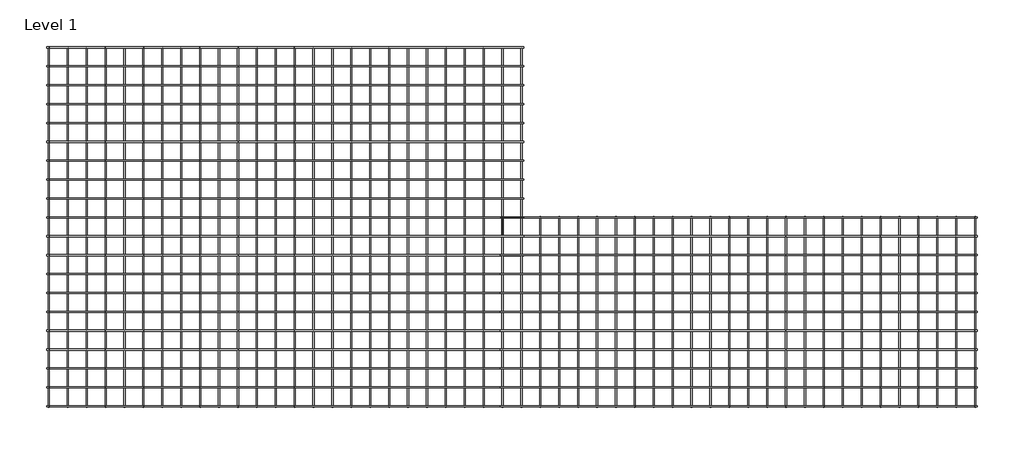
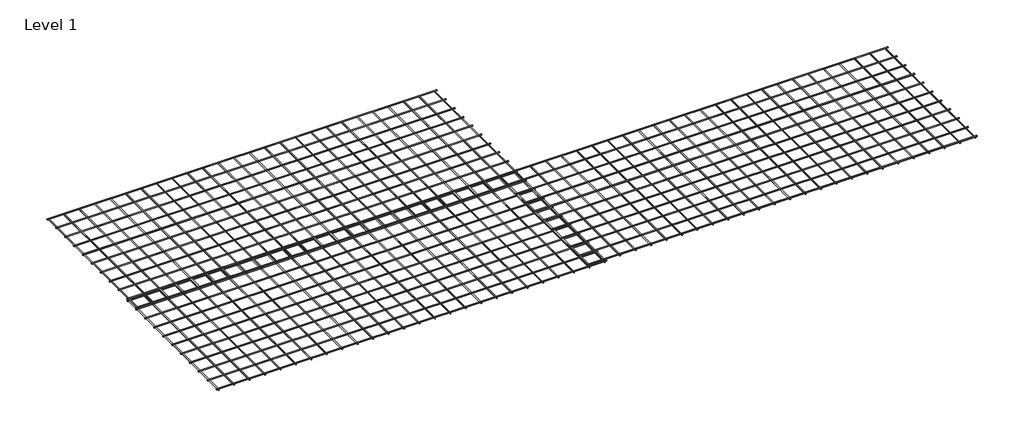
# One storey: 3 proxies.
"""IFC4 building model written with IfcOpenShell, lengths in millimetres."""

from ifc_helpers import new_model, si_unit, origin, place, context, project, spatial, transform, mapped, element, save
from components import united_steel_ductile_se62_standard_mesh_united_steel_ductile_b61f7197

model = new_model("IFC4")

# Units and contexts
model_context = context("Model", 3, world=origin())
ifc_project = project(units=[si_unit("LENGTHUNIT", "METRE", prefix="MILLI")], contexts=[model_context])

# Site, building, storey
site = spatial("IfcSite", under=ifc_project)
building = spatial("IfcBuilding", under=site)
storey = spatial("IfcBuildingStorey", under=building, Name="Level 1", Elevation=0.0)

# Proxies
placement = place(None, origin())
united_steel_ductile_se62_standard_mesh_united_steel_ductile_shape = united_steel_ductile_se62_standard_mesh_united_steel_ductile_b61f7197(model_context)
element("IfcBuildingElementProxy", 1, Name="United Steel Ductile SE62 Standard Mesh : United Steel Ductile SE62 Standard Mesh", ObjectType="United Steel Ductile SE62 Standard Mesh : United Steel Ductile SE62 Standard Mesh", at=placement, inside=storey, context=model_context, shape_type="MappedRepresentation", body=[
    mapped(united_steel_ductile_se62_standard_mesh_united_steel_ductile_shape, transform((5486.2856589, 2142.2532499, 24.375), x_axis=(1.0, 0.0, 0.0), y_axis=(0.0, 1.0, 0.0), z_axis=(0.0, 0.0, 1.0))),
])
element("IfcBuildingElementProxy", 2, Name="United Steel Ductile SE62 Standard Mesh : United Steel Ductile SE62 Standard Mesh", ObjectType="United Steel Ductile SE62 Standard Mesh : United Steel Ductile SE62 Standard Mesh", at=placement, inside=storey, context=model_context, shape_type="MappedRepresentation", body=[
    mapped(united_steel_ductile_se62_standard_mesh_united_steel_ductile_shape, transform((5486.2856589, 3942.6324308, 48.75), x_axis=(1.0, 0.0, 0.0), y_axis=(0.0, 1.0, 0.0), z_axis=(0.0, 0.0, 1.0))),
])
element("IfcBuildingElementProxy", 3, Name="United Steel Ductile SE62 Standard Mesh : United Steel Ductile SE62 Standard Mesh", ObjectType="United Steel Ductile SE62 Standard Mesh : United Steel Ductile SE62 Standard Mesh", at=placement, inside=storey, context=model_context, shape_type="MappedRepresentation", body=[
    mapped(united_steel_ductile_se62_standard_mesh_united_steel_ductile_shape, transform((10286.1955059, 2142.5757703, 48.75), x_axis=(1.0, 0.0, 0.0), y_axis=(0.0, 1.0, 0.0), z_axis=(0.0, 0.0, 1.0))),
])

save(model, "model.ifc")
